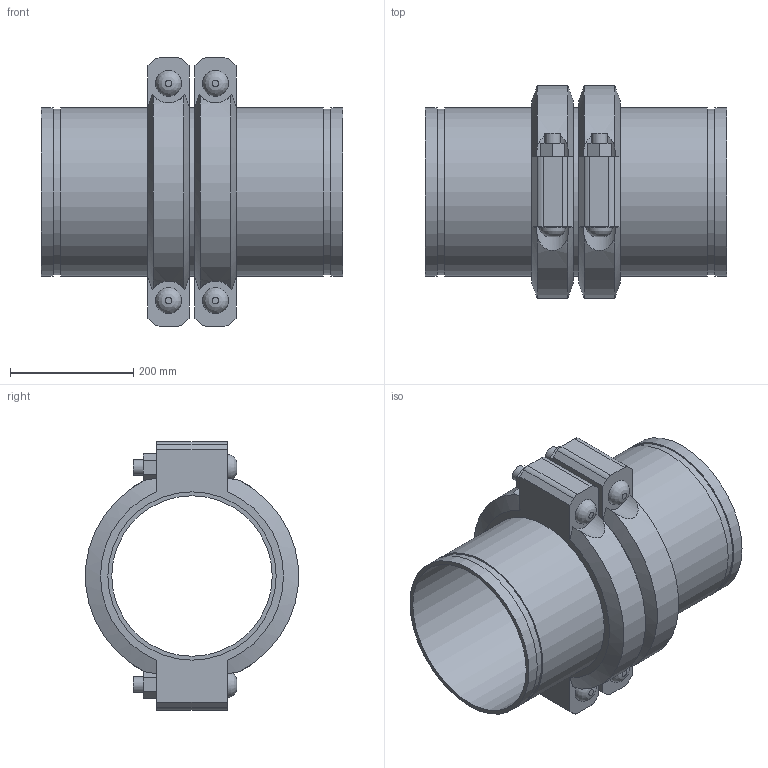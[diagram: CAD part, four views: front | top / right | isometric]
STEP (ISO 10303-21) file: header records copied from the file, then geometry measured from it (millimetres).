
FILE_DESCRIPTION(/* description */ ('VIC SS EXPANSION JOINT 2 COUPLINGS EXPANDED STYLE 155P (OGS) (POTABLE WATER) ','CAx-IF Rec.Pracs.---Representation and Presentation of Product Manufacturing Information (PMI)---4.0---2014-10-13'),/* implementation_level */ '2;1');
FILE_NAME(/* name */ 'C:\Users\kkamble\AppData\Roaming\Autodesk\ApplicationPlugins\Victaulic.Temp\A661\Victaulic_SS_Expansion Joint_Expanded_2 Couplings_Style 155P (OGS)-Potable Water_2 Coup_Expd_10 (250).stp',/* time_stamp */ '2021-07-16T16:49:09+05:00',/* author */ ('kkamble'),/* organization */ ('Victaulic'),/* preprocessor_version */ 'ST-DEVELOPER v17.2',/* originating_system */ 'Autodesk Inventor 2019',/* authorisation */ '');
FILE_SCHEMA (('AP242_MANAGED_MODEL_BASED_3D_ENGINEERING_MIM_LF { 1 0 10303 442 1 1 4 }'));
Length unit declared in the file: inch
Products named in the file (4): 155P-10.0; Nipple-10.0; Nipple-10.0_1; 077-10.0
Assembly tree (5 placements, depth 2):
  155P-10.0
    Nipple-10.0  x2
    Nipple-10.0_1
    077-10.0  x2
Bounding box: 488.95 x 344.9 x 435.1 mm (x, y, z)
Volume: 8280026.1 mm3; surface area: 1423830.5 mm2
Topology: 5 solids, 9 shells, 158 faces, 380 edges, 268 vertices
Faces by surface type: plane 90, cylinder 56, cone 8, bspline 4
Full cylindrical faces by diameter (mm): 25.4 x8, 27.432 x4, 260.35 x3, 264.16 x2, 268.275 x6, 273.05 x13
Entity records: 3016 total; most frequent: CARTESIAN_POINT 669, DIRECTION 465, ORIENTED_EDGE 410, EDGE_CURVE 205, AXIS2_PLACEMENT_3D 188, VERTEX_POINT 146, EDGE_LOOP 111, CIRCLE 96
